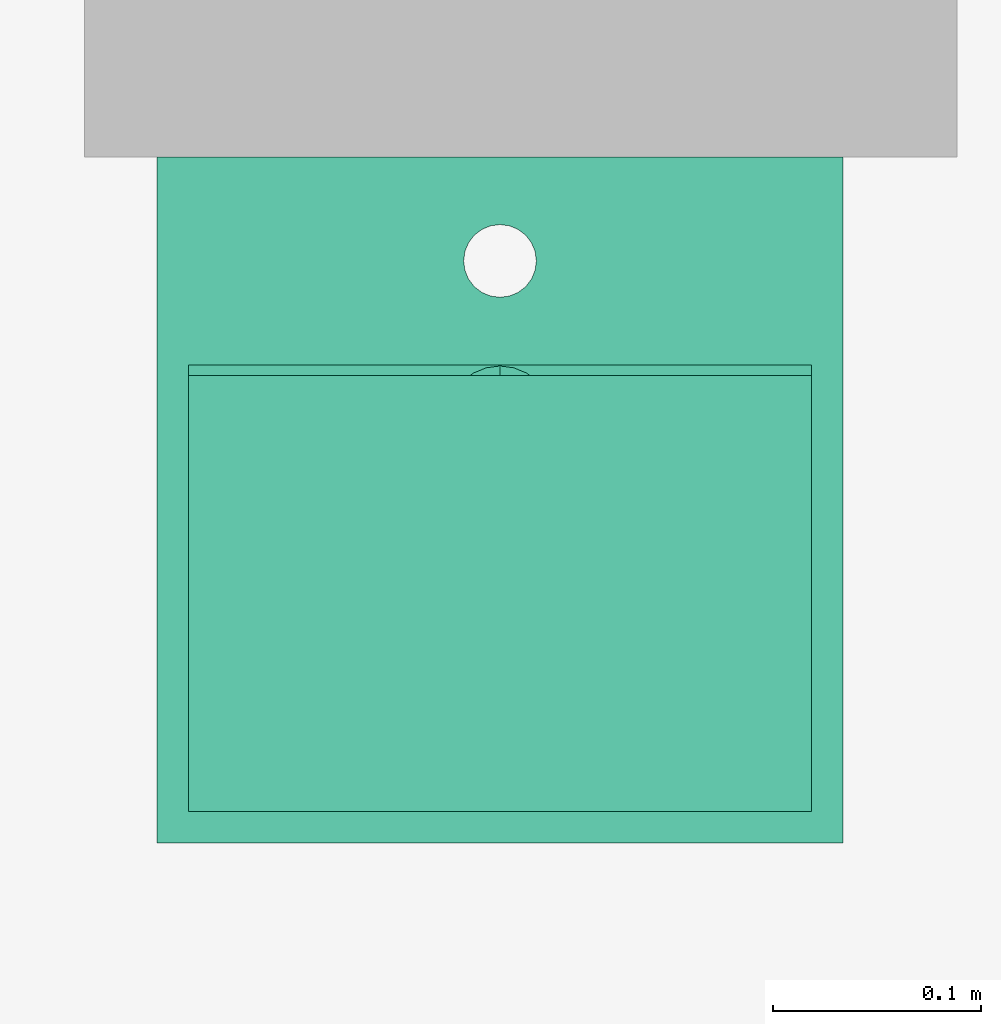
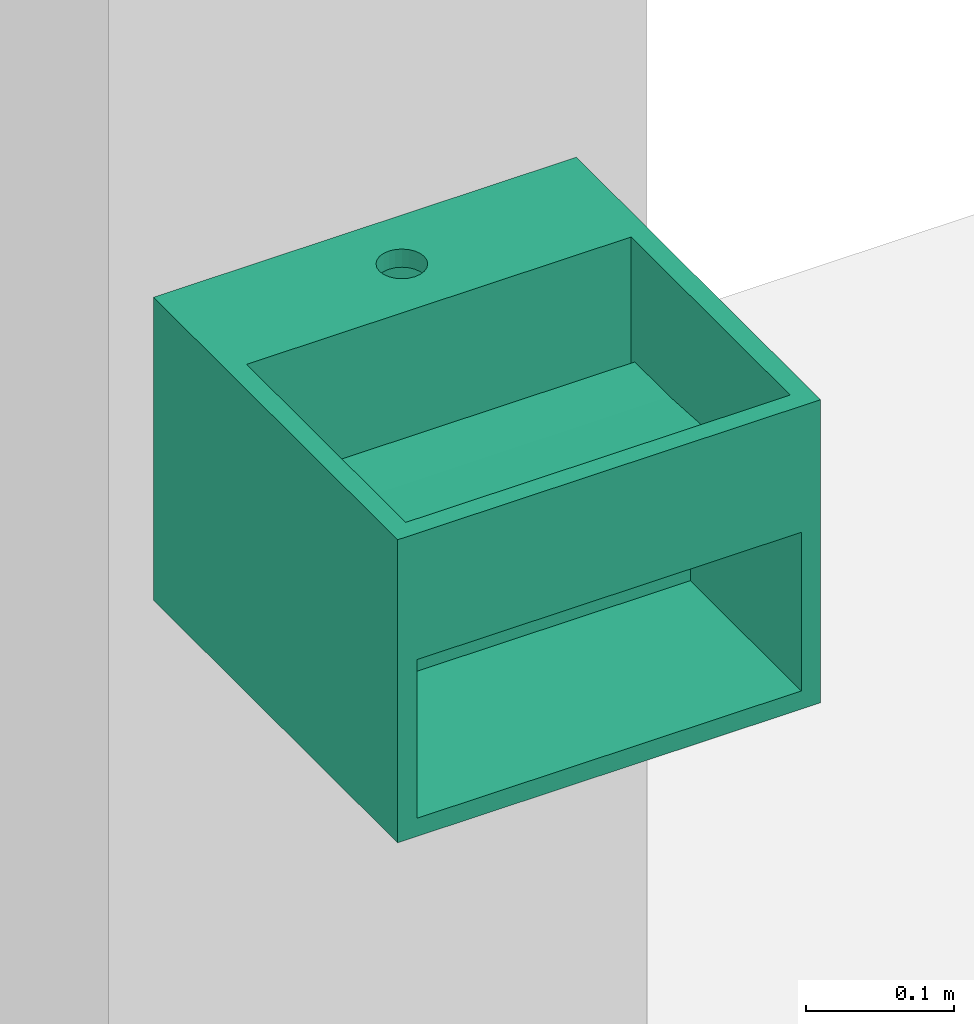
# One storey, part 2 of 2: 1 flow terminal.
"""IFC2X3 building model written with IfcOpenShell, lengths in millimetres."""

from ifc_helpers import new_model, entity, si_unit, converted_unit, derived_unit, direction, frame, origin, place, context, subcontext, project, spatial, faceted_brep, source, transform, mapped, material, element, save


model = new_model("IFC2X3")

# Units and contexts
model_context = context("Model", 3, precision=0.01, world=origin(), true_north=direction((6.12303176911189e-17, 1.0)))
context_of_model = context(None, 3, precision=0.01, world=origin(), true_north=direction((6.12303176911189e-17, 1.0)))
body_context = subcontext(model_context, "Body", "Model", "MODEL_VIEW")
ifc_project = project(units=[si_unit("LENGTHUNIT", "METRE", prefix="MILLI"), si_unit("AREAUNIT", "SQUARE_METRE"), si_unit("VOLUMEUNIT", "CUBIC_METRE"), converted_unit("PLANEANGLEUNIT", "DEGREE", entity("IfcRatioMeasure", 0.0174532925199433), si_unit("PLANEANGLEUNIT", "RADIAN"), dimensions=[0, 0, 0, 0, 0, 0, 0]), si_unit("MASSUNIT", "GRAM", prefix="KILO"), derived_unit("MASSDENSITYUNIT", [(si_unit("MASSUNIT", "GRAM", prefix="KILO"), 1), (si_unit("LENGTHUNIT", "METRE"), -3)]), si_unit("TIMEUNIT", "SECOND"), si_unit("FREQUENCYUNIT", "HERTZ"), si_unit("THERMODYNAMICTEMPERATUREUNIT", "DEGREE_CELSIUS"), derived_unit("THERMALTRANSMITTANCEUNIT", [(si_unit("MASSUNIT", "GRAM", prefix="KILO"), 1), (si_unit("THERMODYNAMICTEMPERATUREUNIT", "KELVIN"), -1), (si_unit("TIMEUNIT", "SECOND"), -3)]), derived_unit("VOLUMETRICFLOWRATEUNIT", [(si_unit("LENGTHUNIT", "METRE"), 3), (si_unit("TIMEUNIT", "SECOND"), -1)]), si_unit("ELECTRICCURRENTUNIT", "AMPERE"), si_unit("ELECTRICVOLTAGEUNIT", "VOLT"), si_unit("POWERUNIT", "WATT"), si_unit("FORCEUNIT", "NEWTON", prefix="KILO"), si_unit("ILLUMINANCEUNIT", "LUX"), si_unit("LUMINOUSFLUXUNIT", "LUMEN"), si_unit("LUMINOUSINTENSITYUNIT", "CANDELA"), derived_unit("USERDEFINED", [(si_unit("MASSUNIT", "GRAM", prefix="KILO"), -1), (si_unit("LENGTHUNIT", "METRE"), -2), (si_unit("TIMEUNIT", "SECOND"), 3), (si_unit("LUMINOUSFLUXUNIT", "LUMEN"), 1)]), derived_unit("LINEARVELOCITYUNIT", [(si_unit("LENGTHUNIT", "METRE"), 1), (si_unit("TIMEUNIT", "SECOND"), -1)]), si_unit("PRESSUREUNIT", "PASCAL"), derived_unit("USERDEFINED", [(si_unit("LENGTHUNIT", "METRE"), -2), (si_unit("MASSUNIT", "GRAM", prefix="KILO"), 1), (si_unit("TIMEUNIT", "SECOND"), -2)])], contexts=[model_context, context_of_model])

# Site, building, storey
site_placement = place(None, origin())
site = spatial("IfcSite", under=ifc_project, at=site_placement, Name="Default", CompositionType="ELEMENT")
building_placement = place(site_placement, origin())
building = spatial("IfcBuilding", under=site, at=building_placement, Name="n/a", CompositionType="ELEMENT")
storey_placement = place(building_placement, origin())
storey = spatial("IfcBuildingStorey", under=building, at=storey_placement, Name="Level 0", CompositionType="ELEMENT", Elevation=0.0)

# Flow terminal
ifc_material = material(Name="DBLTD_Neilur_SolidSurface_White")
shared_shape = source(origin(), body_context, "Body", "Brep", [
    faceted_brep([(315.0, 151.76013865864, 150.000283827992), (15.0, 151.76013865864, 150.000283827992), (15.0, 104.998178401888, 150.000283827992), (315.0, 104.998178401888, 150.000283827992), (315.0, 151.76013865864, 146.186533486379), (315.0, 104.998178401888, 146.186533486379), (15.0, 104.998178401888, 146.186533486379), (15.0, 151.76013865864, 146.186533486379)], [[[0, 1, 2, 3]], [[4, 5, 6, 7]], [[1, 0, 4, 7]], [[2, 1, 7, 6]], [[3, 2, 6, 5]], [[0, 3, 5, 4]]]),
    faceted_brep([(315.0, 151.760138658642, 150.000283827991), (315.0, 151.760138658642, 145.000346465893), (315.0, 99.9981784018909, 145.000346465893), (315.0, 99.9981784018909, 250.0), (315.0, 315.000058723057, 250.0), (315.0, 315.000058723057, 160.000223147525), (315.0, 179.999279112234, 136.700589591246), (315.0, 330.0, 145.891245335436), (315.0, 330.0, 14.9993101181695), (315.0, 179.999279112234, 14.9993101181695), (315.0, 84.9988682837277, 130.000405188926), (315.0, 164.99919384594, 130.000405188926), (315.0, 164.99919384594, 0.0), (315.0, 14.9973722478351, 0.0), (315.0, 14.9973722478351, 235.000592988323), (315.0, 84.9988682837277, 235.000592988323), (15.0, 84.9988682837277, 235.000592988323), (15.0, 14.9973722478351, 235.000592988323), (15.0, 14.9973722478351, 0.0), (15.0, 164.99919384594, 0.0), (15.0, 164.99919384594, 130.000405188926), (15.0, 84.9988682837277, 130.000405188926), (15.0, 330.0, 14.9993101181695), (15.0, 330.0, 145.891245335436), (15.0, 179.999279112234, 136.700589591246), (15.0, 179.999279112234, 14.9993101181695), (15.0, 315.000058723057, 250.0), (15.0, 99.9981784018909, 250.0), (15.0, 99.9981784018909, 145.000346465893), (15.0, 151.760138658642, 145.000346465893), (15.0, 151.760138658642, 150.000283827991), (15.0, 315.000058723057, 160.000223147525), (330.0, 330.0, 250.0), (330.0, 0.0, 250.0), (0.0, 330.0, 250.0), (0.0, 0.0, 250.0), (147.499999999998, 49.9471674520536, 250.0), (148.09629803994, 45.4178341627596, 250.0), (149.844555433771, 41.1971674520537, 250.0), (152.625631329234, 37.5727987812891, 250.0), (156.249999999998, 34.7917228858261, 250.0), (160.470666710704, 33.043465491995, 250.0), (165.0, 32.4471674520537, 250.0), (182.499999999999, 49.9471674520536, 250.0), (181.903701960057, 45.4178341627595, 250.0), (180.155444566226, 41.1971674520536, 250.0), (177.374368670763, 37.5727987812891, 250.0), (173.749999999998, 34.791722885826, 250.0), (169.529333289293, 33.043465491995, 250.0), (148.09629803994, 54.4765007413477, 250.0), (149.844555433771, 58.6971674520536, 250.0), (152.625631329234, 62.3215361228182, 250.0), (156.249999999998, 65.1026120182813, 250.0), (160.470666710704, 66.8508694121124, 250.0), (165.0, 67.4471674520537, 250.0), (169.529333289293, 66.8508694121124, 250.0), (173.749999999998, 65.1026120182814, 250.0), (177.374368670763, 62.3215361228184, 250.0), (180.155444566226, 58.6971674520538, 250.0), (181.903701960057, 54.4765007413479, 250.0), (0.0, 330.0, 0.0), (0.0, 0.0, 0.0), (330.0, 330.0, 0.0), (330.0, 0.0, 0.0), (46.0, 0.0, 176.928203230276), (47.9294476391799, 0.0, 177.727406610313), (44.3431457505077, 0.0, 175.656854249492), (50.0, 0.0, 178.0), (52.0705523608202, 0.0, 177.727406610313), (54.0, 0.0, 176.928203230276), (55.6568542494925, 0.0, 175.656854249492), (274.343145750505, 0.0, 175.656854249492), (43.0717967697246, 0.0, 174.0), (42.2725933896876, 0.0, 172.07055236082), (42.0, 0.0, 170.0), (42.2725933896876, 0.0, 167.92944763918), (43.0717967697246, 0.0, 166.0), (44.3431457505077, 0.0, 164.343145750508), (46.0, 0.0, 163.071796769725), (47.9294476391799, 0.0, 162.272593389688), (50.0, 0.0, 162.0), (52.0705523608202, 0.0, 162.272593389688), (54.0, 0.0, 163.071796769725), (55.6568542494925, 0.0, 164.343145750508), (274.343145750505, 0.0, 164.343145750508), (276.0, 0.0, 163.071796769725), (277.929447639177, 0.0, 162.272593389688), (280.0, 0.0, 162.0), (282.070552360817, 0.0, 162.272593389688), (284.0, 0.0, 163.071796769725), (285.656854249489, 0.0, 164.343145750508), (286.928203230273, 0.0, 166.0), (287.72740661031, 0.0, 167.92944763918), (276.0, 0.0, 176.928203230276), (277.929447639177, 0.0, 177.727406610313), (280.0, 0.0, 178.0), (282.070552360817, 0.0, 177.727406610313), (284.0, 0.0, 176.928203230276), (285.656854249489, 0.0, 175.656854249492), (286.928203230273, 0.0, 174.0), (287.72740661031, 0.0, 172.07055236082), (288.0, 0.0, 170.0), (56.9282032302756, 0.0, 166.0), (273.071796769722, 0.0, 166.0), (57.7274066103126, 0.0, 167.92944763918), (272.272593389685, 0.0, 167.92944763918), (272.0, 0.0, 170.0), (58.0, 0.0, 170.0), (272.272593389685, 0.0, 172.07055236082), (57.7274066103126, 0.0, 172.07055236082), (273.071796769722, 0.0, 174.0), (56.9282032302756, 0.0, 174.0), (149.844555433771, 41.1971674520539, 235.000592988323), (148.09629803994, 45.4178341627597, 235.000592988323), (147.499999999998, 49.9471674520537, 235.000592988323), (160.470666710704, 33.0434654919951, 235.000592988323), (156.249999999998, 34.7917228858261, 235.000592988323), (152.625631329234, 37.5727987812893, 235.000592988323), (165.0, 32.4471674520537, 235.000592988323), (169.529333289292, 33.0434654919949, 235.000592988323), (173.749999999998, 34.7917228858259, 235.000592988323), (177.374368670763, 37.5727987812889, 235.000592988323), (181.903701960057, 45.4178341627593, 235.000592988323), (180.155444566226, 41.1971674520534, 235.000592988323), (182.499999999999, 49.9471674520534, 235.000592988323), (181.903701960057, 54.4765007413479, 235.000592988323), (180.155444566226, 58.6971674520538, 235.000592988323), (173.749999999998, 65.1026120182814, 235.000592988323), (177.374368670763, 62.3215361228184, 235.000592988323), (169.529333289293, 66.8508694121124, 235.000592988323), (165.0, 67.4471674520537, 235.000592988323), (160.470666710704, 66.8508694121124, 235.000592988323), (156.249999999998, 65.1026120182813, 235.000592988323), (152.625631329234, 62.3215361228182, 235.000592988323), (148.09629803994, 54.4765007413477, 235.000592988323), (149.844555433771, 58.6971674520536, 235.000592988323), (273.071796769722, 14.9973722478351, 166.0), (272.272593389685, 14.9973722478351, 167.92944763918), (272.0, 14.997372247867, 170.0), (276.0, 14.9973722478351, 163.071796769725), (274.343145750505, 14.9973722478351, 164.343145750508), (277.929447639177, 14.9973722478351, 162.272593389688), (280.0, 14.9973722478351, 162.0), (282.070552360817, 14.9973722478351, 162.272593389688), (284.0, 14.9973722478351, 163.071796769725), (286.928203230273, 14.9973722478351, 166.0), (285.656854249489, 14.9973722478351, 164.343145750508), (287.72740661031, 14.9973722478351, 167.92944763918), (288.0, 14.9973722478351, 170.0), (287.72740661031, 14.9973722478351, 172.07055236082), (286.928203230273, 14.9973722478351, 174.0), (284.0, 14.9973722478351, 176.928203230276), (285.65685424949, 14.9973722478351, 175.656854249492), (282.070552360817, 14.9973722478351, 177.727406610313), (280.0, 14.9973722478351, 178.0), (277.929447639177, 14.9973722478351, 177.727406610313), (276.0, 14.9973722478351, 176.928203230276), (273.071796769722, 14.9973722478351, 174.0), (274.343145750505, 14.9973722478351, 175.656854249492), (272.272593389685, 14.9973722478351, 172.07055236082), (165.0, 151.760138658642, 145.000346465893), (179.756423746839, 126.13039582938, 130.000405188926), (179.253610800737, 129.949639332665, 130.000405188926), (179.253610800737, 122.311152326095, 130.000405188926), (177.77943783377, 133.5086077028, 130.000405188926), (175.434367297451, 136.564763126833, 130.000405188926), (172.378211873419, 138.909833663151, 130.000405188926), (168.819243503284, 140.384006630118, 130.000405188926), (165.0, 140.88681957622, 130.000405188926), (161.180756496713, 140.384006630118, 130.000405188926), (157.621788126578, 138.909833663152, 130.000405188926), (154.565632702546, 136.564763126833, 130.000405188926), (152.220562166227, 133.5086077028, 130.000405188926), (150.74638919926, 129.949639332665, 130.000405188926), (150.243576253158, 126.13039582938, 130.000405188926), (150.74638919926, 122.311152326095, 130.000405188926), (152.220562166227, 118.75218395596, 130.000405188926), (154.565632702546, 115.696028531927, 130.000405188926), (157.621788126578, 113.350957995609, 130.000405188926), (161.180756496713, 111.876785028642, 130.000405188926), (165.0, 111.37397208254, 130.000405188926), (168.819243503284, 111.876785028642, 130.000405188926), (177.77943783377, 118.75218395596, 130.000405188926), (175.434367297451, 115.696028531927, 130.000405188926), (172.378211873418, 113.350957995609, 130.000405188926), (55.6568542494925, 14.9973722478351, 175.656854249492), (56.9282032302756, 14.9973722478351, 174.0), (57.7274066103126, 14.9973722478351, 172.07055236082), (58.0, 14.9973722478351, 170.0), (57.7274066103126, 14.9973722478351, 167.92944763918), (56.9282032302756, 14.9973722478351, 166.0), (55.6568542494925, 14.9973722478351, 164.343145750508), (54.0, 14.9973722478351, 163.071796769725), (52.0705523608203, 14.9973722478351, 162.272593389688), (50.0, 14.9973722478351, 162.0), (47.9294476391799, 14.9973722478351, 162.272593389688), (46.0, 14.9973722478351, 163.071796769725), (44.3431457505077, 14.9973722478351, 164.343145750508), (43.0717967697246, 14.9973722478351, 166.0), (42.2725933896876, 14.9973722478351, 167.92944763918), (54.0, 14.9973722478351, 176.928203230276), (52.0705523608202, 14.9973722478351, 177.727406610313), (50.0, 14.9973722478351, 178.0), (47.9294476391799, 14.9973722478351, 177.727406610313), (46.0, 14.9973722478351, 176.928203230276), (44.3431457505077, 14.9973722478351, 175.656854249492), (43.0717967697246, 14.9973722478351, 174.0), (42.2725933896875, 14.9973722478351, 172.07055236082), (42.0, 14.9973722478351, 170.0), (189.756430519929, 119.496930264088, 145.000346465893), (187.196008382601, 113.31552441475, 145.000346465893), (190.629742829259, 126.13039582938, 145.000346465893), (183.122964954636, 108.007430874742, 145.000346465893), (177.814871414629, 103.934387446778, 145.000346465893), (171.633465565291, 101.37396530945, 145.000346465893), (165.0, 100.500653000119, 145.000346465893), (158.366534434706, 101.37396530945, 145.000346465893), (152.185128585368, 103.934387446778, 145.000346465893), (146.877035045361, 108.007430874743, 145.000346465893), (142.803991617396, 113.31552441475, 145.000346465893), (140.243569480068, 119.496930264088, 145.000346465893), (139.370257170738, 126.13039582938, 145.000346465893), (140.243569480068, 132.763861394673, 145.000346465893), (142.803991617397, 138.945267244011, 145.000346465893), (146.877035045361, 144.253360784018, 145.000346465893), (152.185128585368, 148.326404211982, 145.000346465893), (158.366534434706, 150.88682634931, 145.000346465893), (171.633465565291, 150.88682634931, 145.000346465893), (177.814871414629, 148.326404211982, 145.000346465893), (183.122964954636, 144.253360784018, 145.000346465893), (187.1960083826, 138.94526724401, 145.000346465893), (189.756430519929, 132.763861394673, 145.000346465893), (162.391408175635, 139.806305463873, 138.01453687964), (159.782816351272, 138.725791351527, 138.01453687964), (157.174224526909, 137.64527723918, 138.01453687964), (151.324090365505, 123.521804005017, 138.01453687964), (152.404604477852, 120.913212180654, 138.01453687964), (153.485118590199, 118.30462035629, 138.01453687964), (165.0, 140.88681957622, 138.01453687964), (154.565632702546, 136.564763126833, 138.01453687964), (153.485118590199, 133.95617130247, 138.01453687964), (150.243576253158, 126.13039582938, 138.01453687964), (151.324090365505, 128.738987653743, 138.01453687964), (152.404604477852, 131.347579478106, 138.01453687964), (162.391408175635, 112.454486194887, 138.01453687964), (157.174224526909, 114.61551441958, 138.01453687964), (159.782816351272, 113.535000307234, 138.01453687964), (154.565632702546, 115.696028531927, 138.01453687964), (165.0, 111.37397208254, 138.01453687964), (167.608591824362, 112.454486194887, 138.01453687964), (170.217183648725, 113.535000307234, 138.01453687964), (172.825775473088, 114.61551441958, 138.01453687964), (178.675909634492, 128.738987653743, 138.01453687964), (177.595395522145, 131.347579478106, 138.01453687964), (176.514881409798, 133.95617130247, 138.01453687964), (175.434367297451, 115.696028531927, 138.01453687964), (176.514881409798, 118.30462035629, 138.01453687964), (179.756423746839, 126.13039582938, 138.01453687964), (178.675909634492, 123.521804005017, 138.01453687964), (177.595395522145, 120.913212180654, 138.01453687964), (167.608591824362, 139.806305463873, 138.01453687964), (172.825775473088, 137.64527723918, 138.01453687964), (170.217183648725, 138.725791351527, 138.01453687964), (175.434367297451, 136.564763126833, 138.01453687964)], [[[0, 1, 2, 3, 4, 5]], [[6, 7, 8, 9]], [[10, 11, 12, 13, 14, 15]], [[16, 17, 18, 19, 20, 21]], [[22, 23, 24, 25]], [[26, 27, 28, 29, 30, 31]], [[32, 4, 3]], [[4, 32, 26]], [[32, 3, 33]], [[34, 26, 32]], [[26, 34, 27]], [[34, 35, 27]], [[36, 27, 35]], [[37, 36, 35]], [[35, 38, 37]], [[38, 35, 39]], [[40, 39, 35]], [[40, 35, 41]], [[42, 41, 35]], [[42, 35, 33]], [[43, 33, 3]], [[44, 33, 43]], [[33, 44, 45]], [[45, 46, 33]], [[46, 47, 33]], [[47, 48, 33]], [[33, 48, 42]], [[49, 27, 36]], [[49, 50, 27]], [[50, 51, 27]], [[52, 27, 51]], [[52, 53, 27]], [[54, 27, 53]], [[55, 3, 54]], [[3, 27, 54]], [[55, 56, 3]], [[56, 57, 3]], [[57, 58, 3]], [[3, 58, 59]], [[43, 3, 59]], [[60, 19, 61]], [[19, 60, 62]], [[62, 12, 19]], [[12, 62, 63]], [[13, 63, 61]], [[63, 13, 12]], [[18, 61, 19]], [[61, 18, 13]], [[32, 7, 34]], [[7, 32, 62]], [[62, 8, 7]], [[8, 62, 22]], [[60, 22, 62]], [[34, 23, 60]], [[22, 60, 23]], [[23, 34, 7]], [[35, 34, 60, 61]], [[35, 64, 65]], [[64, 35, 66]], [[35, 65, 67]], [[67, 68, 35]], [[68, 69, 35]], [[35, 69, 70]], [[35, 70, 71]], [[72, 66, 35]], [[73, 72, 35]], [[74, 73, 35]], [[35, 75, 74]], [[71, 33, 35]], [[75, 35, 61]], [[76, 75, 61]], [[77, 76, 61]], [[61, 78, 77]], [[78, 61, 79]], [[79, 61, 80]], [[81, 80, 61]], [[82, 81, 61]], [[83, 82, 61]], [[61, 63, 83]], [[63, 84, 83]], [[85, 84, 63]], [[86, 85, 63]], [[63, 87, 86]], [[87, 63, 88]], [[89, 88, 63]], [[89, 63, 90]], [[91, 90, 63]], [[92, 91, 63]], [[92, 63, 33]], [[93, 33, 71]], [[93, 94, 33]], [[94, 95, 33]], [[96, 33, 95]], [[33, 96, 97]], [[33, 97, 98]], [[98, 99, 33]], [[99, 100, 33]], [[100, 101, 33]], [[33, 101, 92]], [[83, 84, 102]], [[103, 102, 84]], [[103, 104, 102]], [[105, 104, 103]], [[105, 106, 104]], [[107, 104, 106]], [[107, 106, 108]], [[108, 109, 107]], [[108, 110, 109]], [[111, 109, 110]], [[110, 70, 111]], [[70, 110, 71]], [[32, 33, 63, 62]], [[38, 112, 113, 37]], [[37, 113, 114, 36]], [[41, 115, 116, 40]], [[40, 116, 117, 39]], [[39, 117, 112, 38]], [[41, 42, 118, 115]], [[119, 48, 47, 120]], [[120, 47, 46, 121]], [[122, 123, 45, 44]], [[45, 123, 121, 46]], [[124, 122, 44, 43]], [[118, 42, 48, 119]], [[124, 43, 59, 125]], [[125, 59, 58, 126]], [[127, 128, 57, 56]], [[57, 128, 126, 58]], [[129, 127, 56, 55]], [[129, 55, 54, 130]], [[131, 53, 52, 132]], [[132, 52, 51, 133]], [[134, 135, 50, 49]], [[133, 51, 50, 135]], [[49, 36, 114, 134]], [[130, 54, 53, 131]], [[136, 137, 105, 103]], [[105, 137, 138, 106]], [[139, 140, 84, 85]], [[84, 140, 136, 103]], [[86, 141, 139, 85]], [[141, 86, 87, 142]], [[142, 87, 88, 143]], [[143, 88, 89, 144]], [[145, 146, 90, 91]], [[90, 146, 144, 89]], [[147, 145, 91, 92]], [[147, 92, 101, 148]], [[148, 101, 100, 149]], [[149, 100, 99, 150]], [[151, 152, 98, 97]], [[98, 152, 150, 99]], [[153, 151, 97, 96]], [[153, 96, 95, 154]], [[154, 95, 94, 155]], [[155, 94, 93, 156]], [[157, 158, 71, 110]], [[71, 158, 156, 93]], [[159, 157, 110, 108]], [[159, 108, 106, 138]], [[26, 31, 5, 4]], [[28, 27, 3, 2]], [[160, 1, 0, 30, 29]], [[30, 0, 5, 31]], [[24, 6, 9, 25]], [[22, 25, 9, 8]], [[24, 23, 7, 6]], [[161, 162, 11]], [[10, 161, 11]], [[161, 10, 163]], [[164, 11, 162]], [[11, 164, 165]], [[11, 165, 166]], [[11, 166, 167]], [[167, 168, 11]], [[20, 11, 168]], [[20, 168, 169]], [[20, 169, 170]], [[170, 171, 20]], [[172, 20, 171]], [[20, 172, 173]], [[173, 174, 20]], [[21, 20, 174]], [[21, 174, 175]], [[175, 176, 21]], [[177, 21, 176]], [[21, 177, 178]], [[21, 178, 179]], [[180, 21, 179]], [[10, 180, 181]], [[21, 180, 10]], [[182, 163, 10]], [[183, 182, 10]], [[10, 184, 183]], [[10, 181, 184]], [[16, 21, 10, 15]], [[125, 126, 15]], [[124, 125, 15]], [[128, 15, 126]], [[15, 128, 127]], [[15, 127, 129]], [[15, 129, 130]], [[130, 16, 15]], [[16, 130, 131]], [[16, 131, 132]], [[16, 132, 133]], [[133, 135, 16]], [[134, 16, 135]], [[16, 134, 114]], [[114, 17, 16]], [[17, 114, 113]], [[17, 113, 112]], [[112, 117, 17]], [[116, 17, 117]], [[17, 116, 115]], [[17, 115, 118]], [[14, 17, 118]], [[118, 119, 14]], [[14, 119, 120]], [[14, 120, 121]], [[14, 121, 123]], [[123, 122, 14]], [[122, 124, 14]], [[15, 14, 124]], [[152, 151, 14]], [[150, 152, 14]], [[153, 14, 151]], [[14, 153, 154]], [[14, 154, 155]], [[156, 14, 155]], [[14, 156, 158]], [[185, 14, 158]], [[185, 158, 186]], [[186, 158, 157]], [[157, 187, 186]], [[187, 157, 159]], [[138, 187, 159]], [[138, 188, 187]], [[188, 138, 137]], [[137, 189, 188]], [[137, 136, 189]], [[189, 136, 190]], [[190, 136, 191]], [[136, 140, 191]], [[140, 18, 191]], [[13, 18, 140]], [[13, 140, 139]], [[13, 139, 141]], [[13, 141, 142]], [[142, 143, 13]], [[143, 144, 13]], [[146, 13, 144]], [[13, 146, 145]], [[13, 145, 147]], [[147, 148, 14]], [[14, 13, 147]], [[14, 148, 149]], [[14, 149, 150]], [[18, 192, 191]], [[18, 193, 192]], [[193, 18, 194]], [[18, 195, 194]], [[195, 18, 196]], [[197, 196, 18]], [[18, 198, 197]], [[18, 199, 198]], [[18, 17, 199]], [[17, 185, 200]], [[17, 200, 201]], [[17, 201, 202]], [[202, 203, 17]], [[204, 17, 203]], [[205, 17, 204]], [[17, 205, 206]], [[207, 17, 206]], [[17, 207, 208]], [[208, 199, 17]], [[185, 17, 14]], [[20, 19, 12, 11]], [[209, 210, 2]], [[211, 209, 2]], [[212, 2, 210]], [[2, 212, 213]], [[2, 213, 214]], [[2, 214, 215]], [[215, 28, 2]], [[28, 215, 216]], [[28, 216, 217]], [[28, 217, 218]], [[218, 219, 28]], [[220, 28, 219]], [[28, 220, 221]], [[221, 29, 28]], [[29, 221, 222]], [[29, 222, 223]], [[223, 224, 29]], [[225, 29, 224]], [[29, 225, 226]], [[160, 29, 226]], [[2, 1, 211]], [[1, 160, 227]], [[1, 227, 228]], [[1, 228, 229]], [[1, 229, 230]], [[230, 231, 1]], [[231, 211, 1]], [[208, 74, 75, 199]], [[199, 75, 76, 198]], [[196, 197, 77, 78]], [[76, 77, 197, 198]], [[195, 196, 78, 79]], [[80, 194, 195, 79]], [[193, 81, 82, 192]], [[192, 82, 83, 191]], [[189, 190, 102, 104]], [[83, 102, 190, 191]], [[188, 189, 104, 107]], [[193, 194, 80, 81]], [[188, 107, 109, 187]], [[187, 109, 111, 186]], [[200, 185, 70, 69]], [[111, 70, 185, 186]], [[201, 200, 69, 68]], [[67, 202, 201, 68]], [[203, 65, 64, 204]], [[204, 64, 66, 205]], [[207, 206, 72, 73]], [[66, 72, 206, 205]], [[208, 207, 73, 74]], [[203, 202, 67, 65]], [[168, 232, 169]], [[169, 232, 233, 234, 170]], [[235, 236, 237, 176, 175]], [[176, 237, 177]], [[232, 168, 238]], [[239, 171, 234]], [[240, 171, 239]], [[241, 174, 242]], [[173, 172, 240, 243, 242]], [[172, 171, 240]], [[179, 244, 180]], [[245, 246, 244, 179, 178]], [[245, 178, 177]], [[170, 234, 171]], [[235, 174, 241]], [[247, 177, 237]], [[247, 245, 177]], [[248, 180, 244]], [[173, 242, 174]], [[235, 175, 174]], [[180, 249, 181]], [[181, 249, 250, 251, 184]], [[252, 253, 254, 164, 162]], [[164, 254, 165]], [[249, 180, 248]], [[255, 183, 251]], [[256, 183, 255]], [[257, 161, 258]], [[163, 182, 256, 259, 258]], [[182, 183, 256]], [[167, 260, 168]], [[261, 262, 260, 167, 166]], [[261, 166, 165]], [[184, 251, 183]], [[252, 161, 257]], [[263, 165, 254]], [[263, 261, 165]], [[238, 168, 260]], [[163, 258, 161]], [[252, 162, 161]], [[234, 224, 239]], [[238, 160, 232]], [[242, 243, 240, 223, 222]], [[221, 242, 222]], [[242, 221, 241]], [[239, 224, 240]], [[223, 240, 224]], [[216, 244, 246, 245, 217]], [[237, 236, 235, 220, 219]], [[224, 234, 225]], [[226, 232, 160]], [[225, 234, 233, 232, 226]], [[237, 218, 247]], [[241, 221, 235]], [[248, 244, 215]], [[247, 218, 245]], [[216, 215, 244]], [[220, 235, 221]], [[219, 218, 237]], [[217, 245, 218]], [[251, 212, 255]], [[248, 215, 249]], [[258, 259, 256, 210, 209]], [[211, 258, 209]], [[258, 211, 257]], [[255, 212, 256]], [[210, 256, 212]], [[227, 260, 262, 261, 228]], [[254, 253, 252, 231, 230]], [[212, 251, 213]], [[214, 249, 215]], [[213, 251, 250, 249, 214]], [[254, 229, 263]], [[257, 211, 252]], [[238, 260, 160]], [[263, 229, 261]], [[227, 160, 260]], [[231, 252, 211]], [[230, 229, 254]], [[228, 261, 229]]]),
])
flow_terminal_placement = place(storey_placement, frame((2632.55113487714, 652.680190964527, 600.0), z_axis=(0.0, 0.0, 1.0), x_axis=(-1.0, 0.0, 0.0)))
element("IfcFlowTerminal", 1, at=flow_terminal_placement, inside=storey, material=ifc_material, Name="17", ObjectType="DBLTD_Neilur_WallHungWashbasins_700300:Wall Mounted Basin", context=body_context, shape_type="MappedRepresentation", body=[
    mapped(shared_shape, transform((0.0, 0.0, 0.0), scale=1.0)),
])

save(model, "model.ifc")
